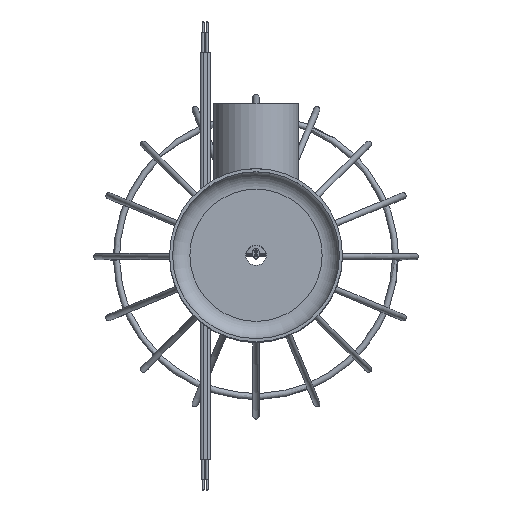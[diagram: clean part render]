
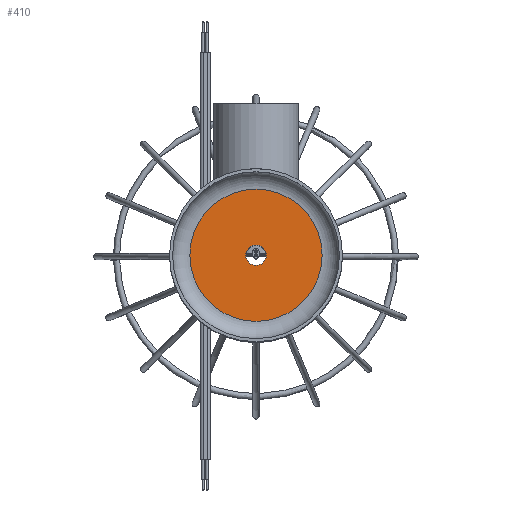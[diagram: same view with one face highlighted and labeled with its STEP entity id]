
A CAD part, top view. The second image highlights one B-rep face of the part: STEP entity #410.
In plain terms, the highlighted planar face has unit normal (0, 0, 1) as drawn and (0, 0, -1) by its records, which use the part's own axes.
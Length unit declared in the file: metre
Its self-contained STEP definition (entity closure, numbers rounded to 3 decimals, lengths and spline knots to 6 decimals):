
#410 = ADVANCED_FACE( '', ( #695, #696 ), #697, .T. );
#695 = FACE_OUTER_BOUND( '', #1023, .T. );
#696 = FACE_BOUND( '', #1024, .T. );
#697 = PLANE( '', #1025 );
#1023 = EDGE_LOOP( '', ( #1575 ) );
#1024 = EDGE_LOOP( '', ( #1576 ) );
#1025 = AXIS2_PLACEMENT_3D( '', #1577, #1578, #1579 );
#1575 = ORIENTED_EDGE( '', *, *, #1825, .T. );
#1576 = ORIENTED_EDGE( '', *, *, #1824, .F. );
#1577 = CARTESIAN_POINT( '', ( -0.0325, 0., 0.0225 ) );
#1578 = DIRECTION( '', ( 0., 0., -1. ) );
#1579 = DIRECTION( '', ( -1., 0., 0. ) );
#1824 = EDGE_CURVE( '', #2074, #2074, #2075, .T. );
#1825 = EDGE_CURVE( '', #2076, #2076, #2077, .T. );
#2074 = VERTEX_POINT( '', #3526 );
#2075 = CIRCLE( '', #3527, 0.005 );
#2076 = VERTEX_POINT( '', #3528 );
#2077 = CIRCLE( '', #3529, 0.0325 );
#3526 = CARTESIAN_POINT( '', ( -0.005, 0., 0.0225 ) );
#3527 = AXIS2_PLACEMENT_3D( '', #3810, #3811, #3812 );
#3528 = CARTESIAN_POINT( '', ( -0.0325, 0., 0.0225 ) );
#3529 = AXIS2_PLACEMENT_3D( '', #3813, #3814, #3815 );
#3810 = CARTESIAN_POINT( '', ( 0., 0., 0.0225 ) );
#3811 = DIRECTION( '', ( 0., 0., -1. ) );
#3812 = DIRECTION( '', ( -1., 0., 0. ) );
#3813 = CARTESIAN_POINT( '', ( 0., 0., 0.0225 ) );
#3814 = DIRECTION( '', ( 0., 0., -1. ) );
#3815 = DIRECTION( '', ( -1., 0., 0. ) );
